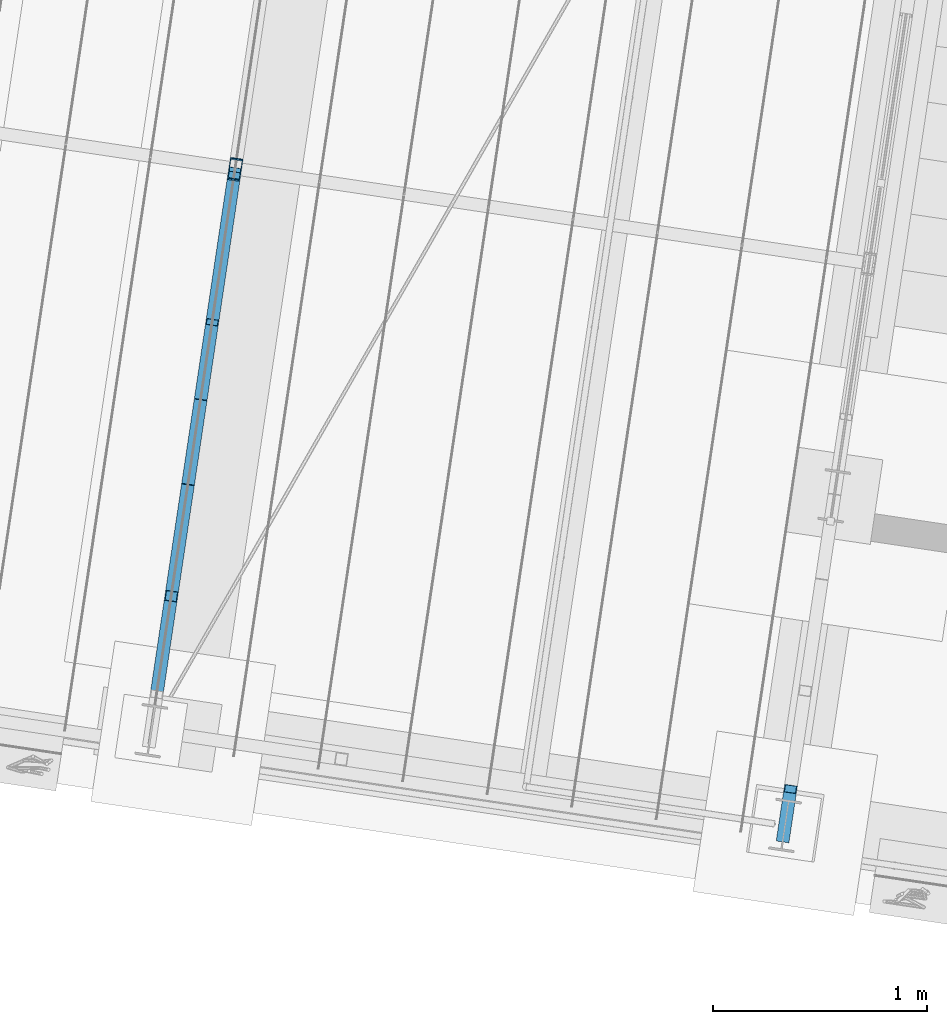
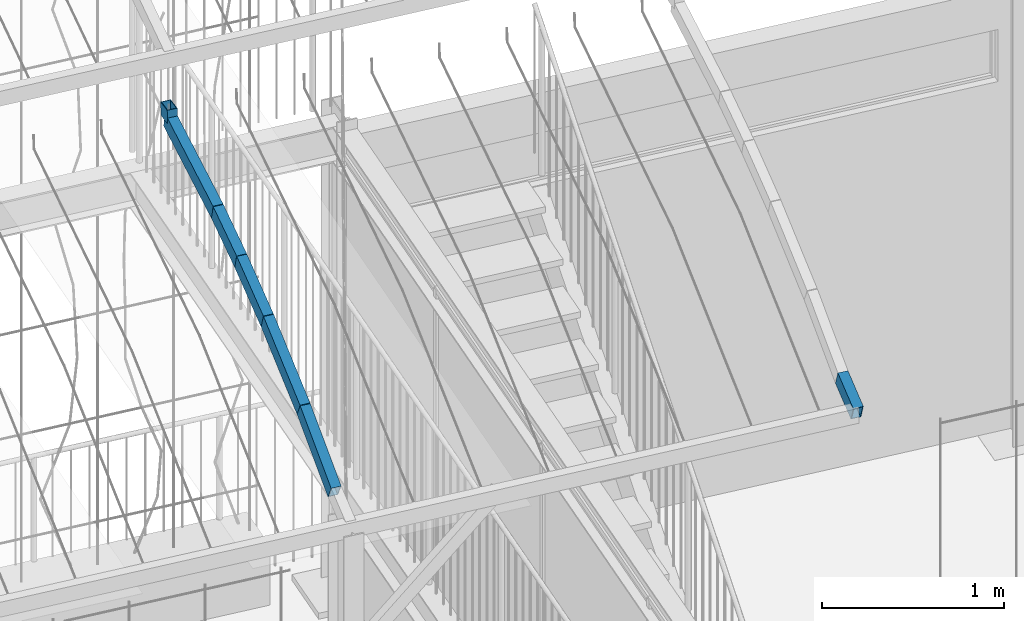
# One storey, part 108 of 142: 7 members, 1 element without a shape of its own.
"""IFC4 building model written with IfcOpenShell, lengths in metres."""

from ifc_helpers import new_model, si_unit, direction, frame, origin_with_axes, place, context, subcontext, project, spatial, hollow_rectangle, extrude, material, material_profile, profile_set, profile_usage, type_object, element, aggregate, save


model = new_model("IFC4")

# Units and contexts
model_context = context("Model", 3, precision=1e-05, world=origin_with_axes(), true_north=direction((0.0, 1.0)))
body_context = subcontext(model_context, "Body", "Model", "MODEL_VIEW")
ifc_project = project(units=[si_unit("LENGTHUNIT", "METRE"), si_unit("AREAUNIT", "SQUARE_METRE"), si_unit("VOLUMEUNIT", "CUBIC_METRE")], contexts=[model_context])

# Site, building, storey
site_placement = place(None, origin_with_axes())
site = spatial("IfcSite", under=ifc_project, at=site_placement, Name="Lares · Rua das Mercês · artigo 4771")
building_placement = place(site_placement, frame((15.0, 9.7, 14.65), z_axis=(0.0, 0.0, 1.0), x_axis=(0.989015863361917, -0.147809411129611, 0.0)))
building = spatial("IfcBuilding", under=site, at=building_placement, Name="Casa Sobreposta")
storey_placement = place(building_placement, origin_with_axes())
storey = spatial("IfcBuildingStorey", under=building, at=storey_placement, Name="00 · Habitação e estacionamento", Elevation=14.65)

# Assembly, members
assembly_placement = place(storey_placement, origin_with_axes())
assembly = element("IfcElementAssembly", 1, at=assembly_placement, inside=storey, Name="Pérgola · prolongamento da estufa 6 m", ObjectType="PERGOLA_GREENHOUSE_EXTENSION", PredefinedType="USERDEFINED")
ifc_material = material(Name="Aço pintado / Stahl lackiert", Category="steel")
ifc_material_profile = material_profile(ifc_material, hollow_rectangle(XDim=0.06, YDim=0.1, WallThickness=0.004))
ifc_profile_set = profile_set([ifc_material_profile], Name="RHS100x60x4")
ifc_profile_usage_1 = profile_usage(ifc_profile_set)
member_type = type_object("IfcMemberType", Name="RHS100x60x4 / steel", PredefinedType="NOTDEFINED", material=ifc_profile_set)
member_1_placement = place(assembly_placement, frame((-3.0, -1.26765509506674, 6.32392631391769), z_axis=(0.0, 0.878851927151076, 0.477094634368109), x_axis=(1.0, 0.0, 0.0)))
member_1 = element("IfcMember", 2, at=member_1_placement, type_object=member_type, material=ifc_profile_usage_1, Name="Pérgola · arco contínuo com a estufa", context=body_context, shape_type="SweptSolid", body=[
    extrude(hollow_rectangle(XDim=0.06, YDim=0.1, WallThickness=0.004), origin_with_axes(), (0.0, 0.0, 1.0), 0.52863528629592),
])
ifc_profile_usage_2 = profile_usage(ifc_profile_set)
member_2_placement = place(assembly_placement, frame((-3.0, -0.803062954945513, 6.57613537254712), z_axis=(0.0, 0.915885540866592, 0.401439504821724), x_axis=(1.0, 0.0, 0.0)))
member_2 = element("IfcMember", 3, at=member_2_placement, type_object=member_type, material=ifc_profile_usage_2, Name="Pérgola · arco contínuo com a estufa", context=body_context, shape_type="SweptSolid", body=[
    extrude(hollow_rectangle(XDim=0.06, YDim=0.1, WallThickness=0.004), origin_with_axes(), (0.0, 0.0, 1.0), 0.596771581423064),
])
ifc_profile_usage_3 = profile_usage(ifc_profile_set)
member_3_placement = place(assembly_placement, frame((-3.0, -0.256488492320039, 6.81570306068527), z_axis=(0.0, 0.942820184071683, 0.333301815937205), x_axis=(1.0, 0.0, 0.0)))
member_3 = element("IfcMember", 4, at=member_3_placement, type_object=member_type, material=ifc_profile_usage_3, Name="Pérgola · arco contínuo com a estufa", context=body_context, shape_type="SweptSolid", body=[
    extrude(hollow_rectangle(XDim=0.06, YDim=0.1, WallThickness=0.004), origin_with_axes(), (0.0, 0.0, 1.0), 0.423025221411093),
])
ifc_profile_usage_4 = profile_usage(ifc_profile_set)
member_4_placement = place(assembly_placement, frame((-3.0, 0.142348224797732, 6.95669813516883), z_axis=(0.0, 0.959692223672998, 0.281053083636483), x_axis=(1.0, 0.0, 0.0)))
member_4 = element("IfcMember", 5, at=member_4_placement, type_object=member_type, material=ifc_profile_usage_4, Name="Pérgola · arco contínuo com a estufa", context=body_context, shape_type="SweptSolid", body=[
    extrude(hollow_rectangle(XDim=0.06, YDim=0.1, WallThickness=0.004), origin_with_axes(), (0.0, 0.0, 1.0), 0.365557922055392),
])
ifc_profile_usage_5 = profile_usage(ifc_profile_set)
member_5_placement = place(assembly_placement, frame((-3.0, 0.493171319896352, 7.05943931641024), z_axis=(0.0, 0.977995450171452, 0.208626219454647), x_axis=(1.0, 0.0, 0.0)))
member_5 = element("IfcMember", 6, at=member_5_placement, type_object=member_type, material=ifc_profile_usage_5, Name="Pérgola · arco contínuo com a estufa", context=body_context, shape_type="SweptSolid", body=[
    extrude(hollow_rectangle(XDim=0.06, YDim=0.1, WallThickness=0.004), origin_with_axes(), (0.0, 0.0, 1.0), 0.737465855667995),
])
ifc_profile_usage_6 = profile_usage(ifc_profile_set)
member_6_placement = place(assembly_placement, frame((-3.0, 1.21440957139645, 7.21329402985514), z_axis=(0.0, 0.0686229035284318, 0.997642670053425), x_axis=(1.0, 0.0, 0.0)))
member_6 = element("IfcMember", 7, at=member_6_placement, type_object=member_type, material=ifc_profile_usage_6, Name="Pérgola · arco contínuo com a estufa", context=body_context, shape_type="SweptSolid", body=[
    extrude(hollow_rectangle(XDim=0.06, YDim=0.1, WallThickness=0.004), origin_with_axes(), (0.0, 0.0, 1.0), 0.0875893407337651),
])
ifc_profile_usage_7 = profile_usage(ifc_profile_set)
member_7_placement = place(assembly_placement, frame((0.0, -1.5, 6.23430000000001), z_axis=(0.0, 0.932991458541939, 0.35989851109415), x_axis=(1.0, 0.0, 0.0)))
member_7 = element("IfcMember", 8, at=member_7_placement, type_object=member_type, material=ifc_profile_usage_7, Name="Pérgola · arco contínuo com a estufa", context=body_context, shape_type="SweptSolid", body=[
    extrude(hollow_rectangle(XDim=0.06, YDim=0.1, WallThickness=0.004), origin_with_axes(), (0.0, 0.0, 1.0), 0.249032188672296),
])
aggregate(assembly, [member_1, member_2, member_3, member_4, member_5, member_6, member_7])

save(model, "model.ifc")
